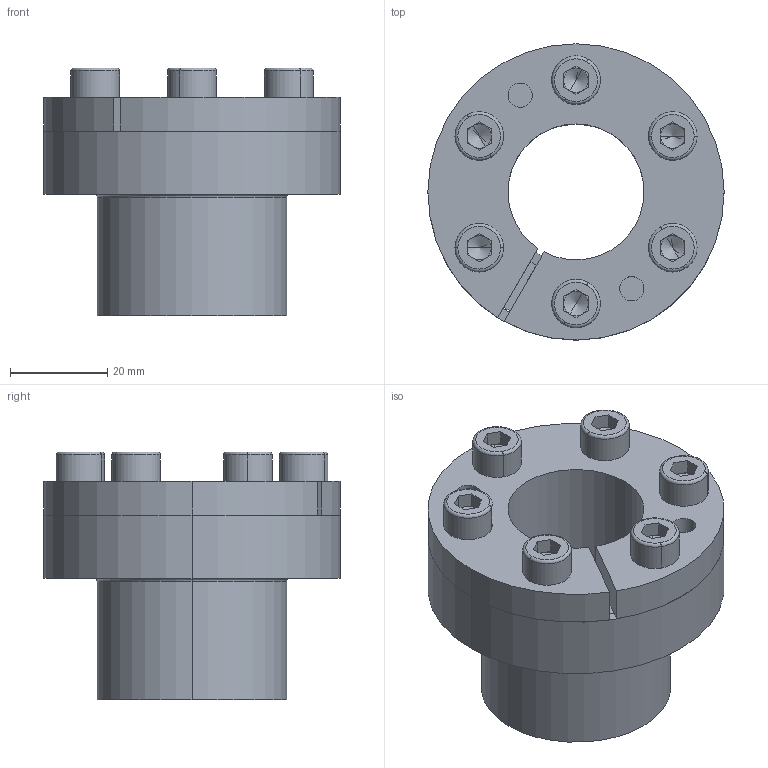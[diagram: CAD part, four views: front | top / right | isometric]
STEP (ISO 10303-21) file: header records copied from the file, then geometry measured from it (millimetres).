
FILE_DESCRIPTION (( 'STEP AP214' ), '1' );
FILE_NAME ('CONEX-B-28x39.step', '2013-04-04T12:41:42', ( 'Pc' ), ( '' ), 'SwSTEP 2.0', 'SolidWorks 2013', '' );
FILE_SCHEMA (( 'AUTOMOTIVE_DESIGN' ));
Length unit declared in the file: millimetre
Products named in the file (1): CONEX-B-28x39
Bounding box: 61 x 61 x 51.04 mm (x, y, z)
Volume: 53807.6 mm3; surface area: 35178.4 mm2
Topology: 9 solids, 9 shells, 230 faces, 530 edges, 318 vertices
Faces by surface type: plane 102, cylinder 68, torus 30, cone 30
Entity records: 9154 total; most frequent: DIRECTION 1226, CARTESIAN_POINT 1121, ORIENTED_EDGE 1036, EDGE_CURVE 518, AXIS2_PLACEMENT_3D 485, VERTEX_POINT 318, EDGE_LOOP 272, LINE 256
